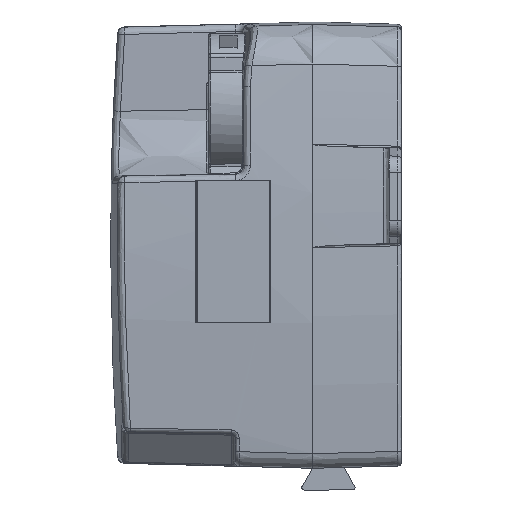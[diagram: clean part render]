
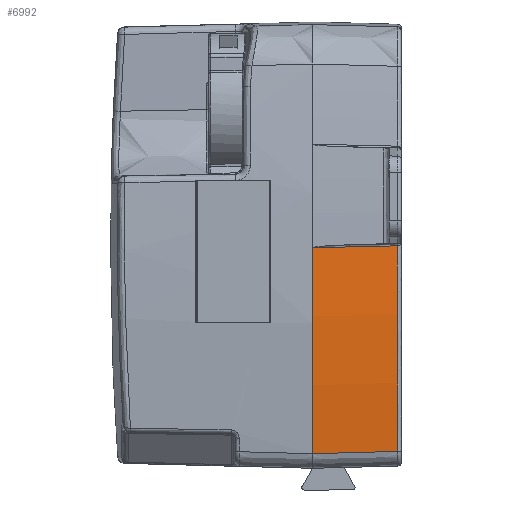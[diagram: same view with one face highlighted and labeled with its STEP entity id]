
A CAD part, left-side view. The second image highlights one B-rep face of the part: STEP entity #6992.
In plain terms, the highlighted conical face has half-angle 1.5 degrees and reference radius 333.029 mm.
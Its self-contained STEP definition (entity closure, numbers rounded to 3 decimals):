
#116 = ORIENTED_EDGE ( 'NONE', *, *, #19407, .F. ) ;
#4715 = CARTESIAN_POINT ( 'NONE',  ( -62.878, -21.026, -50.839 ) ) ;
#5129 = CARTESIAN_POINT ( 'NONE',  ( 268.029, 0., -18.557 ) ) ;
#6569 = CARTESIAN_POINT ( 'NONE',  ( 268.029, -21.026, -18.557 ) ) ;
#6600 = CARTESIAN_POINT ( 'NONE',  ( -62.878, -21.026, -50.839 ) ) ;
#6851 = DIRECTION ( 'NONE',  ( 0., 0., 1. ) ) ;
#6992 = ADVANCED_FACE ( 'NONE', ( #23048 ), #28474, .T. ) ;
#7310 = CARTESIAN_POINT ( 'NONE',  ( -63.045, -14.017, -51.025 ) ) ;
#8306 = VERTEX_POINT ( 'NONE', #6600 ) ;
#9459 = B_SPLINE_CURVE_WITH_KNOTS ( 'NONE', 3,
 ( #27090, #15606, #24666, #15912 ),
 .UNSPECIFIED., .F., .F.,
 ( 4, 4 ),
 ( 0., 1. ),
 .UNSPECIFIED. ) ;
#9465 = AXIS2_PLACEMENT_3D ( 'NONE', #16111, #18642, #6851 ) ;
#11909 = DIRECTION ( 'NONE',  ( 0., 0., 1. ) ) ;
#12402 = CARTESIAN_POINT ( 'NONE',  ( -63.377, 0., -51.396 ) ) ;
#12907 = EDGE_LOOP ( 'NONE', ( #19074, #116, #23462, #25276 ) ) ;
#13746 = EDGE_CURVE ( 'NONE', #23255, #23215, #9459, .T. ) ;
#15606 = CARTESIAN_POINT ( 'NONE',  ( -64.133, -14.017, -0.325 ) ) ;
#15912 = CARTESIAN_POINT ( 'NONE',  ( -64.518, 0., -0.638 ) ) ;
#16111 = CARTESIAN_POINT ( 'NONE',  ( 268.029, 0., -18.557 ) ) ;
#16360 = CARTESIAN_POINT ( 'NONE',  ( -63.211, -7.009, -51.21 ) ) ;
#17138 = EDGE_CURVE ( 'NONE', #23215, #25451, #20316, .T. ) ;
#18642 = DIRECTION ( 'NONE',  ( 0., 1., 0. ) ) ;
#19074 = ORIENTED_EDGE ( 'NONE', *, *, #17138, .T. ) ;
#19407 = EDGE_CURVE ( 'NONE', #8306, #25451, #29751, .T. ) ;
#19425 = CARTESIAN_POINT ( 'NONE',  ( -63.941, -21.026, -0.169 ) ) ;
#20316 = CIRCLE ( 'NONE', #24715, 333.029 ) ;
#20437 = CARTESIAN_POINT ( 'NONE',  ( -63.377, 0., -51.396 ) ) ;
#20516 = AXIS2_PLACEMENT_3D ( 'NONE', #6569, #20654, #27424 ) ;
#20654 = DIRECTION ( 'NONE',  ( 0., -1., 0. ) ) ;
#21344 = EDGE_CURVE ( 'NONE', #23255, #8306, #28668, .T. ) ;
#21610 = CARTESIAN_POINT ( 'NONE',  ( -64.518, 0., -0.638 ) ) ;
#23048 = FACE_OUTER_BOUND ( 'NONE', #12907, .T. ) ;
#23215 = VERTEX_POINT ( 'NONE', #21610 ) ;
#23255 = VERTEX_POINT ( 'NONE', #19425 ) ;
#23462 = ORIENTED_EDGE ( 'NONE', *, *, #21344, .F. ) ;
#24666 = CARTESIAN_POINT ( 'NONE',  ( -64.325, -7.009, -0.482 ) ) ;
#24715 = AXIS2_PLACEMENT_3D ( 'NONE', #5129, #25739, #11909 ) ;
#25276 = ORIENTED_EDGE ( 'NONE', *, *, #13746, .T. ) ;
#25451 = VERTEX_POINT ( 'NONE', #20437 ) ;
#25739 = DIRECTION ( 'NONE',  ( 0., -1., 0. ) ) ;
#27090 = CARTESIAN_POINT ( 'NONE',  ( -63.941, -21.026, -0.169 ) ) ;
#27424 = DIRECTION ( 'NONE',  ( 0., 0., -1. ) ) ;
#28474 = CONICAL_SURFACE ( 'NONE', #9465, 333.029, 0.026 ) ;
#28668 = CIRCLE ( 'NONE', #20516, 332.479 ) ;
#29751 = B_SPLINE_CURVE_WITH_KNOTS ( 'NONE', 3,
 ( #4715, #7310, #16360, #12402 ),
 .UNSPECIFIED., .F., .F.,
 ( 4, 4 ),
 ( 0., 1. ),
 .UNSPECIFIED. ) ;
